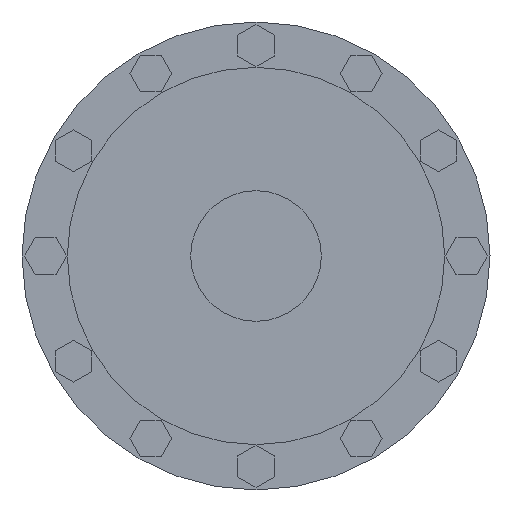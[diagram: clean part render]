
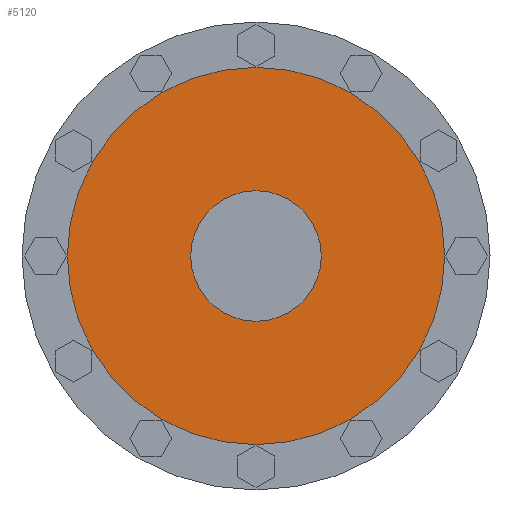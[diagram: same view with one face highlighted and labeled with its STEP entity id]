
A CAD part, left-side view. The second image highlights one B-rep face of the part: STEP entity #5120.
In plain terms, the highlighted planar face has unit normal (-1, 0, 0).
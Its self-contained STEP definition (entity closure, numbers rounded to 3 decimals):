
#6=CARTESIAN_POINT('',(-1096.,0.,0.));
#7=DIRECTION('',(1.,0.,0.));
#8=DIRECTION('',(0.,1.,0.));
#9=AXIS2_PLACEMENT_3D('',#6,#7,#8);
#1097=CARTESIAN_POINT('',(-1096.,0.,0.));
#1098=DIRECTION('',(-1.,0.,0.));
#1099=DIRECTION('',(0.,1.,0.));
#1100=AXIS2_PLACEMENT_3D('',#1097,#1098,#1099);
#1102=CARTESIAN_POINT('',(-1096.,0.,0.));
#1103=DIRECTION('',(1.,0.,0.));
#1104=DIRECTION('',(0.,1.,0.));
#1105=AXIS2_PLACEMENT_3D('',#1102,#1103,#1104);
#1116=CARTESIAN_POINT('',(-1096.,0.,0.));
#1117=DIRECTION('',(-1.,0.,0.));
#1118=DIRECTION('',(0.,1.,0.));
#1119=AXIS2_PLACEMENT_3D('',#1116,#1117,#1118);
#3200=CARTESIAN_POINT('',(-1096.,260.,0.));
#3202=VERTEX_POINT('',#3200);
#3214=CARTESIAN_POINT('',(-1096.,-260.,0.));
#3216=VERTEX_POINT('',#3214);
#3237=CARTESIAN_POINT('',(-1096.,90.,0.));
#3238=VERTEX_POINT('',#3237);
#3239=CARTESIAN_POINT('',(-1096.,-90.,0.));
#3240=VERTEX_POINT('',#3239);
#5106=CARTESIAN_POINT('',(-1096.,0.,0.));
#5107=DIRECTION('',(1.,0.,0.));
#5108=DIRECTION('',(0.,-1.,0.));
#5109=AXIS2_PLACEMENT_3D('',#5106,#5107,#5108);
#5110=PLANE('',#5109);
#5111=ORIENTED_EDGE('',*,*,#5099,.F.);
#5112=ORIENTED_EDGE('',*,*,#5088,.T.);
#5113=EDGE_LOOP('',(#5111,#5112));
#5114=FACE_OUTER_BOUND('',#5113,.F.);
#5115=ORIENTED_EDGE('',*,*,#4230,.F.);
#5117=ORIENTED_EDGE('',*,*,#5116,.T.);
#5118=EDGE_LOOP('',(#5115,#5117));
#5119=FACE_BOUND('',#5118,.F.);
#5120=ADVANCED_FACE('',(#5114,#5119),#5110,.F.);
#10=CIRCLE('',#9,90.);
#1101=CIRCLE('',#1100,260.);
#1106=CIRCLE('',#1105,260.);
#1120=CIRCLE('',#1119,90.);
#4230=EDGE_CURVE('',#3238,#3240,#10,.T.);
#5088=EDGE_CURVE('',#3202,#3216,#1106,.T.);
#5099=EDGE_CURVE('',#3202,#3216,#1101,.T.);
#5116=EDGE_CURVE('',#3238,#3240,#1120,.T.);
